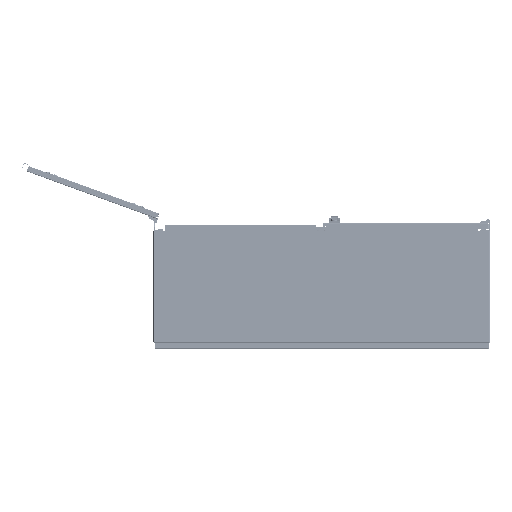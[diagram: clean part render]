
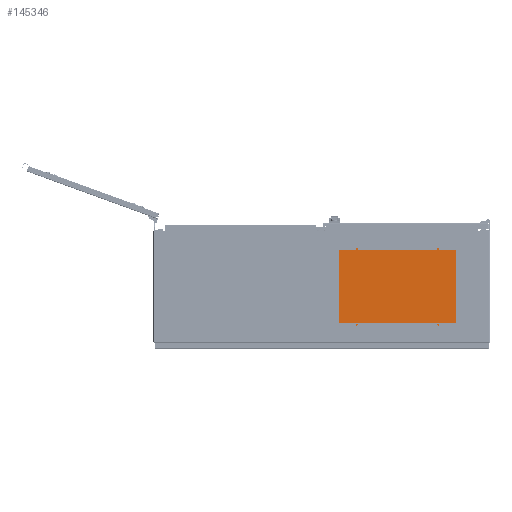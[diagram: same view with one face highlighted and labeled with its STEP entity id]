
A CAD part, front view. The second image highlights one B-rep face of the part: STEP entity #145346.
In plain terms, the highlighted planar face has unit normal (0, -1, 0).
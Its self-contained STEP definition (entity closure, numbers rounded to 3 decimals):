
#142416 = VERTEX_POINT ( 'NONE', #327790 ) ;
#142432 = EDGE_CURVE ( 'NONE', #142416, #142436, #327755, .T. ) ;
#142436 = VERTEX_POINT ( 'NONE', #327908 ) ;
#142605 = VERTEX_POINT ( 'NONE', #328611 ) ;
#142613 = EDGE_CURVE ( 'NONE', #142619, #142605, #328605, .T. ) ;
#142619 = VERTEX_POINT ( 'NONE', #328596 ) ;
#142723 = VERTEX_POINT ( 'NONE', #328887 ) ;
#142747 = EDGE_CURVE ( 'NONE', #142752, #142723, #328845, .T. ) ;
#142752 = VERTEX_POINT ( 'NONE', #329075 ) ;
#142844 = VERTEX_POINT ( 'NONE', #329360 ) ;
#142861 = EDGE_CURVE ( 'NONE', #142865, #142844, #329434, .T. ) ;
#142865 = VERTEX_POINT ( 'NONE', #329417 ) ;
#144003 = EDGE_CURVE ( 'NONE', #144004, #144211, #334014, .T. ) ;
#144004 = VERTEX_POINT ( 'NONE', #334007 ) ;
#144093 = EDGE_CURVE ( 'NONE', #144096, #144108, #334602, .T. ) ;
#144096 = VERTEX_POINT ( 'NONE', #334590 ) ;
#144108 = VERTEX_POINT ( 'NONE', #334811 ) ;
#144135 = VERTEX_POINT ( 'NONE', #334751 ) ;
#144155 = EDGE_CURVE ( 'NONE', #144158, #144135, #334714, .T. ) ;
#144158 = VERTEX_POINT ( 'NONE', #334912 ) ;
#144211 = VERTEX_POINT ( 'NONE', #335413 ) ;
#144633 = VERTEX_POINT ( 'NONE', #337210 ) ;
#144648 = EDGE_CURVE ( 'NONE', #144652, #144633, #337359, .T. ) ;
#144652 = VERTEX_POINT ( 'NONE', #337353 ) ;
#144873 = EDGE_CURVE ( 'NONE', #144108, #144158, #338559, .T. ) ;
#144932 = EDGE_CURVE ( 'NONE', #144135, #144004, #338799, .T. ) ;
#145009 = EDGE_CURVE ( 'NONE', #144211, #144652, #339130, .T. ) ;
#145071 = EDGE_CURVE ( 'NONE', #144633, #144096, #339325, .T. ) ;
#145158 = EDGE_CURVE ( 'NONE', #142844, #142865, #339608, .T. ) ;
#145216 = EDGE_CURVE ( 'NONE', #142723, #142752, #339808, .T. ) ;
#145229 = ORIENTED_EDGE ( 'NONE', *, *, #145158, .T. ) ;
#145236 = EDGE_LOOP ( 'NONE', ( #145245, #145440 ) ) ;
#145245 = ORIENTED_EDGE ( 'NONE', *, *, #145434, .F. ) ;
#145292 = EDGE_CURVE ( 'NONE', #142605, #142619, #340091, .T. ) ;
#145346 = ADVANCED_FACE ( 'NONE', ( #340292, #340290, #340287, #340286, #340455 ), #340405, .T. ) ;
#145356 = EDGE_LOOP ( 'NONE', ( #145362, #145377 ) ) ;
#145362 = ORIENTED_EDGE ( 'NONE', *, *, #142613, .T. ) ;
#145377 = ORIENTED_EDGE ( 'NONE', *, *, #145292, .T. ) ;
#145378 = EDGE_LOOP ( 'NONE', ( #145389, #145393 ) ) ;
#145389 = ORIENTED_EDGE ( 'NONE', *, *, #142747, .T. ) ;
#145393 = ORIENTED_EDGE ( 'NONE', *, *, #145216, .T. ) ;
#145397 = EDGE_LOOP ( 'NONE', ( #145404, #145229 ) ) ;
#145404 = ORIENTED_EDGE ( 'NONE', *, *, #142861, .T. ) ;
#145434 = EDGE_CURVE ( 'NONE', #142436, #142416, #340762, .T. ) ;
#145440 = ORIENTED_EDGE ( 'NONE', *, *, #142432, .F. ) ;
#145444 = EDGE_LOOP ( 'NONE', ( #145461, #145467, #145473, #145484, #145493, #145501, #145506, #145524 ) ) ;
#145461 = ORIENTED_EDGE ( 'NONE', *, *, #144648, .T. ) ;
#145467 = ORIENTED_EDGE ( 'NONE', *, *, #145071, .T. ) ;
#145473 = ORIENTED_EDGE ( 'NONE', *, *, #144093, .T. ) ;
#145484 = ORIENTED_EDGE ( 'NONE', *, *, #144873, .T. ) ;
#145493 = ORIENTED_EDGE ( 'NONE', *, *, #144155, .T. ) ;
#145501 = ORIENTED_EDGE ( 'NONE', *, *, #144932, .T. ) ;
#145506 = ORIENTED_EDGE ( 'NONE', *, *, #144003, .T. ) ;
#145524 = ORIENTED_EDGE ( 'NONE', *, *, #145009, .T. ) ;
#327755 = CIRCLE ( 'NONE', #327949, 0.5 ) ;
#327790 = CARTESIAN_POINT ( 'NONE',  ( 125., 2003., 135.5 ) ) ;
#327908 = CARTESIAN_POINT ( 'NONE',  ( 125., 2003., 134.5 ) ) ;
#327940 = DIRECTION ( 'NONE',  ( 0., 0., -1. ) ) ;
#327943 = DIRECTION ( 'NONE',  ( 0., -1., 0. ) ) ;
#327946 = CARTESIAN_POINT ( 'NONE',  ( 125., 2003., 135. ) ) ;
#327949 = AXIS2_PLACEMENT_3D ( 'NONE', #327946, #327943, #327940 ) ;
#328596 = CARTESIAN_POINT ( 'NONE',  ( 125., 2003., -135.5 ) ) ;
#328597 = DIRECTION ( 'NONE',  ( 0., 0., -1. ) ) ;
#328599 = DIRECTION ( 'NONE',  ( 0., 1., 0. ) ) ;
#328602 = CARTESIAN_POINT ( 'NONE',  ( 125., 2003., -135. ) ) ;
#328603 = AXIS2_PLACEMENT_3D ( 'NONE', #328602, #328599, #328597 ) ;
#328605 = CIRCLE ( 'NONE', #328603, 0.5 ) ;
#328611 = CARTESIAN_POINT ( 'NONE',  ( 125., 2003., -134.5 ) ) ;
#328845 = CIRCLE ( 'NONE', #329093, 0.5 ) ;
#328887 = CARTESIAN_POINT ( 'NONE',  ( 415., 2003., -134.5 ) ) ;
#329075 = CARTESIAN_POINT ( 'NONE',  ( 415., 2003., -135.5 ) ) ;
#329088 = DIRECTION ( 'NONE',  ( 0., 0., -1. ) ) ;
#329090 = DIRECTION ( 'NONE',  ( 0., 1., 0. ) ) ;
#329092 = CARTESIAN_POINT ( 'NONE',  ( 415., 2003., -135. ) ) ;
#329093 = AXIS2_PLACEMENT_3D ( 'NONE', #329092, #329090, #329088 ) ;
#329360 = CARTESIAN_POINT ( 'NONE',  ( 415., 2003., 135.5 ) ) ;
#329417 = CARTESIAN_POINT ( 'NONE',  ( 415., 2003., 134.5 ) ) ;
#329420 = DIRECTION ( 'NONE',  ( 0., 0., -1. ) ) ;
#329422 = DIRECTION ( 'NONE',  ( 0., 1., 0. ) ) ;
#329425 = CARTESIAN_POINT ( 'NONE',  ( 415., 2003., 135. ) ) ;
#329426 = AXIS2_PLACEMENT_3D ( 'NONE', #329425, #329422, #329420 ) ;
#329434 = CIRCLE ( 'NONE', #329426, 0.5 ) ;
#334007 = CARTESIAN_POINT ( 'NONE',  ( 510.536, 2003., 159.343 ) ) ;
#334010 = DIRECTION ( 'NONE',  ( -0.707, 0., 0.707 ) ) ;
#334011 = VECTOR ( 'NONE', #334010, 1000. ) ;
#334012 = CARTESIAN_POINT ( 'NONE',  ( 509.939, 2003., 159.939 ) ) ;
#334014 = LINE ( 'NONE', #334012, #334011 ) ;
#334590 = CARTESIAN_POINT ( 'NONE',  ( 29.464, 2003., -159.343 ) ) ;
#334594 = DIRECTION ( 'NONE',  ( 0.707, 0., -0.707 ) ) ;
#334596 = VECTOR ( 'NONE', #334594, 1000. ) ;
#334599 = CARTESIAN_POINT ( 'NONE',  ( 30.061, 2003., -159.939 ) ) ;
#334602 = LINE ( 'NONE', #334599, #334596 ) ;
#334708 = DIRECTION ( 'NONE',  ( 0.707, 0., 0.707 ) ) ;
#334709 = VECTOR ( 'NONE', #334708, 1000. ) ;
#334712 = CARTESIAN_POINT ( 'NONE',  ( 509.939, 2003., -159.939 ) ) ;
#334714 = LINE ( 'NONE', #334712, #334709 ) ;
#334751 = CARTESIAN_POINT ( 'NONE',  ( 510.536, 2003., -159.343 ) ) ;
#334811 = CARTESIAN_POINT ( 'NONE',  ( 30.657, 2003., -160.536 ) ) ;
#334912 = CARTESIAN_POINT ( 'NONE',  ( 509.343, 2003., -160.536 ) ) ;
#335413 = CARTESIAN_POINT ( 'NONE',  ( 509.343, 2003., 160.536 ) ) ;
#337210 = CARTESIAN_POINT ( 'NONE',  ( 29.464, 2003., 159.343 ) ) ;
#337353 = CARTESIAN_POINT ( 'NONE',  ( 30.657, 2003., 160.536 ) ) ;
#337355 = DIRECTION ( 'NONE',  ( -0.707, 0., -0.707 ) ) ;
#337356 = VECTOR ( 'NONE', #337355, 1000. ) ;
#337357 = CARTESIAN_POINT ( 'NONE',  ( 30.061, 2003., 159.939 ) ) ;
#337359 = LINE ( 'NONE', #337357, #337356 ) ;
#338553 = DIRECTION ( 'NONE',  ( 1., 0., 0. ) ) ;
#338554 = VECTOR ( 'NONE', #338553, 1000. ) ;
#338558 = CARTESIAN_POINT ( 'NONE',  ( 270., 2003., -160.536 ) ) ;
#338559 = LINE ( 'NONE', #338558, #338554 ) ;
#338793 = DIRECTION ( 'NONE',  ( 0., 0., 1. ) ) ;
#338796 = VECTOR ( 'NONE', #338793, 1000. ) ;
#338798 = CARTESIAN_POINT ( 'NONE',  ( 510.536, 2003., 0. ) ) ;
#338799 = LINE ( 'NONE', #338798, #338796 ) ;
#339125 = DIRECTION ( 'NONE',  ( -1., 0., 0. ) ) ;
#339127 = VECTOR ( 'NONE', #339125, 1000. ) ;
#339128 = CARTESIAN_POINT ( 'NONE',  ( 270., 2003., 160.536 ) ) ;
#339130 = LINE ( 'NONE', #339128, #339127 ) ;
#339322 = DIRECTION ( 'NONE',  ( 0., 0., -1. ) ) ;
#339323 = VECTOR ( 'NONE', #339322, 1000. ) ;
#339324 = CARTESIAN_POINT ( 'NONE',  ( 29.464, 2003., 0. ) ) ;
#339325 = LINE ( 'NONE', #339324, #339323 ) ;
#339598 = DIRECTION ( 'NONE',  ( 0., 0., -1. ) ) ;
#339602 = DIRECTION ( 'NONE',  ( 0., 1., 0. ) ) ;
#339606 = CARTESIAN_POINT ( 'NONE',  ( 415., 2003., 135. ) ) ;
#339607 = AXIS2_PLACEMENT_3D ( 'NONE', #339606, #339602, #339598 ) ;
#339608 = CIRCLE ( 'NONE', #339607, 0.5 ) ;
#339802 = DIRECTION ( 'NONE',  ( 0., 0., -1. ) ) ;
#339803 = DIRECTION ( 'NONE',  ( 0., 1., 0. ) ) ;
#339804 = CARTESIAN_POINT ( 'NONE',  ( 415., 2003., -135. ) ) ;
#339806 = AXIS2_PLACEMENT_3D ( 'NONE', #339804, #339803, #339802 ) ;
#339808 = CIRCLE ( 'NONE', #339806, 0.5 ) ;
#340079 = DIRECTION ( 'NONE',  ( 0., 0., -1. ) ) ;
#340080 = DIRECTION ( 'NONE',  ( 0., 1., 0. ) ) ;
#340083 = CARTESIAN_POINT ( 'NONE',  ( 125., 2003., -135. ) ) ;
#340086 = AXIS2_PLACEMENT_3D ( 'NONE', #340083, #340080, #340079 ) ;
#340091 = CIRCLE ( 'NONE', #340086, 0.5 ) ;
#340286 = FACE_BOUND ( 'NONE', #145236, .T. ) ;
#340287 = FACE_BOUND ( 'NONE', #145397, .T. ) ;
#340290 = FACE_BOUND ( 'NONE', #145378, .T. ) ;
#340292 = FACE_BOUND ( 'NONE', #145356, .T. ) ;
#340398 = DIRECTION ( 'NONE',  ( 1., 0., 0. ) ) ;
#340399 = DIRECTION ( 'NONE',  ( 0., -1., 0. ) ) ;
#340401 = CARTESIAN_POINT ( 'NONE',  ( 29.464, 2003., -160.536 ) ) ;
#340403 = AXIS2_PLACEMENT_3D ( 'NONE', #340401, #340399, #340398 ) ;
#340405 = PLANE ( 'NONE',  #340403 ) ;
#340455 = FACE_OUTER_BOUND ( 'NONE', #145444, .T. ) ;
#340755 = DIRECTION ( 'NONE',  ( 0., 0., -1. ) ) ;
#340758 = DIRECTION ( 'NONE',  ( 0., -1., 0. ) ) ;
#340759 = CARTESIAN_POINT ( 'NONE',  ( 125., 2003., 135. ) ) ;
#340760 = AXIS2_PLACEMENT_3D ( 'NONE', #340759, #340758, #340755 ) ;
#340762 = CIRCLE ( 'NONE', #340760, 0.5 ) ;
